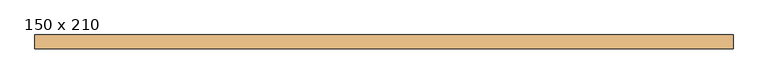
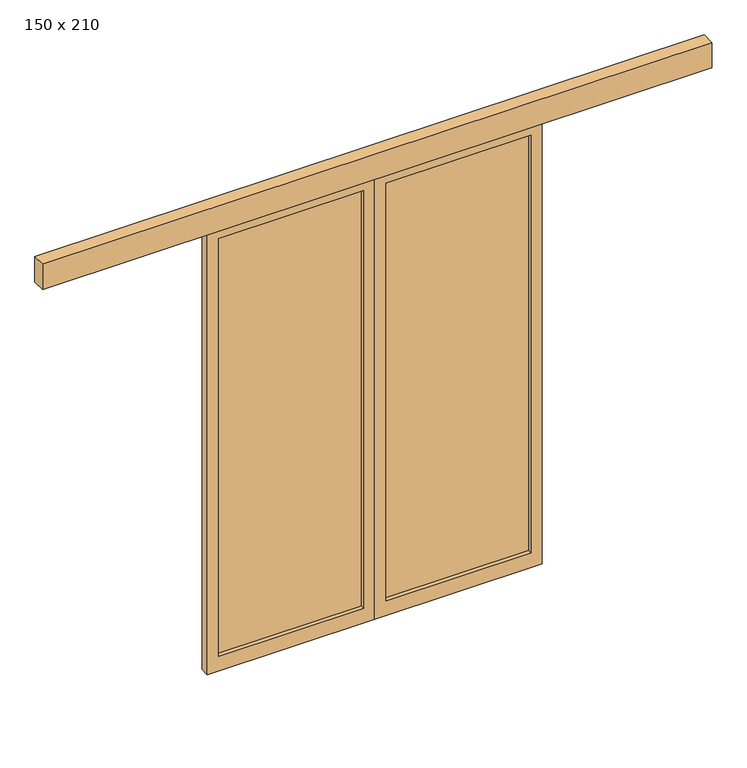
"""IFC4 building model written with IfcOpenShell, lengths in millimetres: door geometry, PORTA DE VIDRO COM ESQUADRIA DE CORRER EM TRILHO LATERAL - 2 FOLHAS : 150 x 210."""

from ifc_helpers import new_model, si_unit, frame, origin, place, context, project, spatial, polyline, outline, extrude, source, transform, mapped, element, save


def door_150_x_210_8e785332(model_context):
    return source(origin(), model_context, "Body", "SweptSolid", [
        extrude(outline(polyline([(50.0, -92.0), (700.0, -92.0), (700.0, -98.0), (50.0, -98.0), (50.0, -92.0)])), frame((0.0, 0.0, 70.0), z_axis=(0.0, 0.0, 1.0), x_axis=(1.0, 0.0, 0.0)), (0.0, 0.0, 1.0), 1980.0),
        extrude(outline(polyline([(2100.0, 0.0), (0.0, 0.0), (0.0, 750.0), (2100.0, 750.0), (2100.0, 0.0)]), holes=[polyline([(2050.0, 50.0), (2050.0, 700.0), (70.0, 700.0), (70.0, 50.0), (2050.0, 50.0)])]), frame((0.0, -115.0, 0.0), z_axis=(0.0, 1.0, 0.0), x_axis=(0.0, 0.0, 1.0)), (0.0, 0.0, 1.0), 40.0),
        extrude(outline(polyline([(-50.0, -92.0), (-50.0, -98.0), (-700.0, -98.0), (-700.0, -92.0), (-50.0, -92.0)])), frame((0.0, 0.0, 70.0), z_axis=(0.0, 0.0, 1.0), x_axis=(1.0, 0.0, 0.0)), (0.0, 0.0, 1.0), 1980.0),
        extrude(outline(polyline([(2100.0, 0.0), (2100.0, -750.0), (0.0, -750.0), (0.0, 0.0), (2100.0, 0.0)]), holes=[polyline([(2050.0, -50.0), (70.0, -50.0), (70.0, -700.0), (2050.0, -700.0), (2050.0, -50.0)])]), frame((0.0, -115.0, 0.0), z_axis=(0.0, 1.0, 0.0), x_axis=(0.0, 0.0, 1.0)), (0.0, 0.0, 1.0), 40.0),
        extrude(outline(polyline([(1500.0, -135.0), (-1500.0, -135.0), (-1500.0, -75.0), (1500.0, -75.0), (1500.0, -135.0)])), frame((0.0, 0.0, 2100.0), z_axis=(0.0, 0.0, 1.0), x_axis=(1.0, 0.0, 0.0)), (0.0, 0.0, 1.0), 120.0),
    ])


if __name__ == "__main__":
    model = new_model("IFC4")
    model_context = context("Model", 3, world=origin())
    ifc_project = project(units=[si_unit("LENGTHUNIT", "METRE", prefix="MILLI")], contexts=[model_context])
    site = spatial("IfcSite", under=ifc_project)
    building = spatial("IfcBuilding", under=site)
    placement = place(None, origin())
    door_150_x_210_shape = door_150_x_210_8e785332(model_context)
    element("IfcDoor", 1, ObjectType="PORTA DE VIDRO COM ESQUADRIA DE CORRER EM TRILHO LATERAL - 2 FOLHAS : 150 x 210", at=placement, inside=building, context=model_context, shape_type="MappedRepresentation", body=[
        mapped(door_150_x_210_shape, transform((0.0, 0.0, 0.0), x_axis=(1.0, 0.0, 0.0), y_axis=(0.0, 1.0, 0.0), z_axis=(0.0, 0.0, 1.0))),
    ])
    save(model, "model.ifc")
